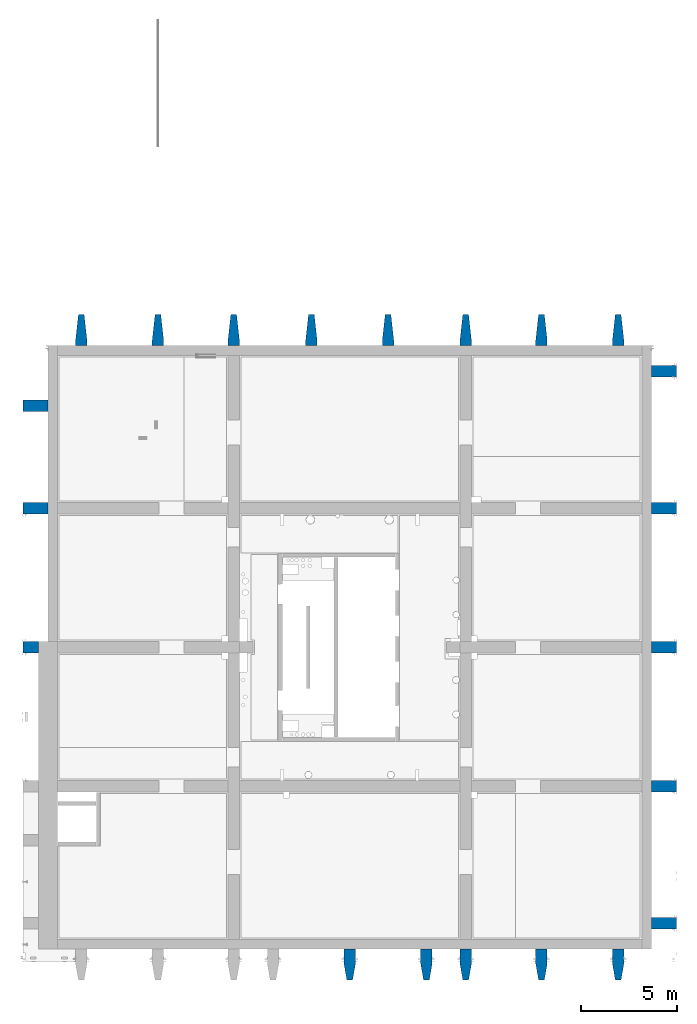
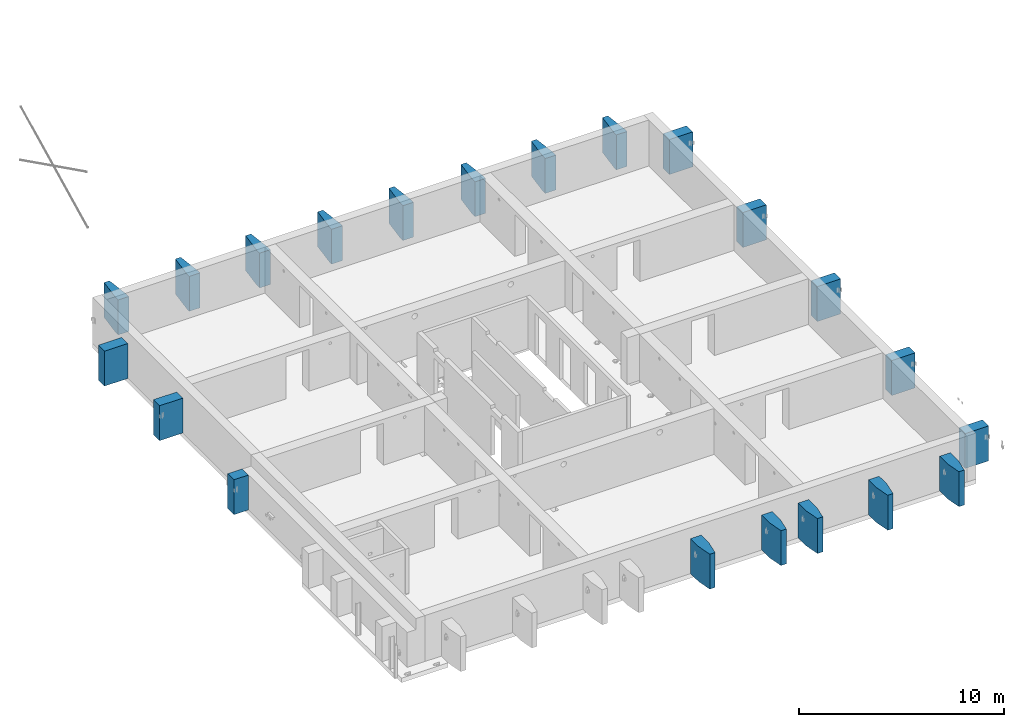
# One storey, part 2 of 22: 21 columns.
"""IFC2X3 building model written with IfcOpenShell, lengths in millimetres."""

from ifc_helpers import new_model, entity, si_unit, converted_unit, derived_unit, direction, frame, frame_2d, origin, origin_2d_with_axis, place, context, subcontext, project, spatial, polyline, rectangle, outline, extrude, source, transform, mapped, material, type_object, type_shapes, element, save


model = new_model("IFC2X3")

# Units and contexts
model_context = context("Model", 3, precision=0.01, world=origin(), true_north=direction((6.12303176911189e-17, 1.0)))
body_context = subcontext(model_context, "Body", "Model", "MODEL_VIEW")
ifc_project = project(units=[si_unit("LENGTHUNIT", "METRE", prefix="MILLI"), si_unit("AREAUNIT", "SQUARE_METRE"), si_unit("VOLUMEUNIT", "CUBIC_METRE"), converted_unit("PLANEANGLEUNIT", "DEGREE", entity("IfcRatioMeasure", 0.0174532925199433), si_unit("PLANEANGLEUNIT", "RADIAN"), dimensions=[0, 0, 0, 0, 0, 0, 0]), si_unit("MASSUNIT", "GRAM", prefix="KILO"), derived_unit("MASSDENSITYUNIT", [(si_unit("MASSUNIT", "GRAM", prefix="KILO"), 1), (si_unit("LENGTHUNIT", "METRE"), -3)]), si_unit("TIMEUNIT", "SECOND"), si_unit("FREQUENCYUNIT", "HERTZ"), si_unit("THERMODYNAMICTEMPERATUREUNIT", "DEGREE_CELSIUS"), derived_unit("THERMALTRANSMITTANCEUNIT", [(si_unit("MASSUNIT", "GRAM", prefix="KILO"), 1), (si_unit("THERMODYNAMICTEMPERATUREUNIT", "KELVIN"), -1), (si_unit("TIMEUNIT", "SECOND"), -3)]), derived_unit("VOLUMETRICFLOWRATEUNIT", [(si_unit("LENGTHUNIT", "METRE"), 3), (si_unit("TIMEUNIT", "SECOND"), -1)]), si_unit("ELECTRICCURRENTUNIT", "AMPERE"), si_unit("ELECTRICVOLTAGEUNIT", "VOLT"), si_unit("POWERUNIT", "WATT"), si_unit("FORCEUNIT", "NEWTON", prefix="KILO"), si_unit("ILLUMINANCEUNIT", "LUX"), si_unit("LUMINOUSFLUXUNIT", "LUMEN"), si_unit("LUMINOUSINTENSITYUNIT", "CANDELA"), derived_unit("USERDEFINED", [(si_unit("MASSUNIT", "GRAM", prefix="KILO"), -1), (si_unit("LENGTHUNIT", "METRE"), -2), (si_unit("TIMEUNIT", "SECOND"), 3), (si_unit("LUMINOUSFLUXUNIT", "LUMEN"), 1)]), derived_unit("LINEARVELOCITYUNIT", [(si_unit("LENGTHUNIT", "METRE"), 1), (si_unit("TIMEUNIT", "SECOND"), -1)]), si_unit("PRESSUREUNIT", "PASCAL"), derived_unit("USERDEFINED", [(si_unit("LENGTHUNIT", "METRE"), -2), (si_unit("MASSUNIT", "GRAM", prefix="KILO"), 1), (si_unit("TIMEUNIT", "SECOND"), -2)])], contexts=[model_context])

# Site, building, storey
site_placement = place(None, origin())
site = spatial("IfcSite", under=ifc_project, at=site_placement, Name="Default", CompositionType="ELEMENT")
building_placement = place(site_placement, origin())
building = spatial("IfcBuilding", under=site, at=building_placement, Name="niet gebruiken", CompositionType="ELEMENT")
storey_placement = place(building_placement, frame((0.0, 0.0, 15000.0)))
storey = spatial("IfcBuildingStorey", under=building, at=storey_placement, Name="04 vierde verdieping", CompositionType="ELEMENT", Elevation=15000.0)

# Columns
ifc_material = material(Name="NLRS_f2_beton ihwg")
column_type_1 = type_object("IfcColumnType", Name="600/300x2120/770", PredefinedType="COLUMN", material=ifc_material)
shared_shape_1 = source(origin(), body_context, "Body", "SweptSolid", [
    extrude(outline(polyline([(360.0, -300.0), (630.0, -300.0), (630.0, 300.0), (360.0, 300.0), (-990.0, 150.0), (-990.0, -150.0), (360.0, -300.0)])), frame((155750.0, 33860.0, 14910.0), z_axis=(0.0, 0.0, 1.0), x_axis=(0.0, -1.0, 0.0)), (0.0, 0.0, 1.0), 2075.00000000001),
])
type_shapes(column_type_1, [shared_shape_1])
column_1_placement = place(storey_placement, frame((0.0, 0.0, -15000.0)))
element("IfcColumn", 1, at=column_1_placement, inside=storey, type_object=column_type_1, material=ifc_material, Name="NLRS_28.11_SCO_TLB_beton kolom ihwg V vorm_gen:600/300x2120/770", ObjectType="600/300x2120/770", context=body_context, shape_type="MappedRepresentation", body=[
    mapped(shared_shape_1, transform((0.0, 0.0, 0.0), scale=1.0)),
])
column_type_2 = type_object("IfcColumnType", Name="600/300x2120/770", PredefinedType="COLUMN", material=ifc_material)
shared_shape_2 = source(origin(), body_context, "Body", "SweptSolid", [
    extrude(outline(polyline([(360.0, -300.0), (630.0, -300.0), (630.0, 300.0), (360.0, 300.0), (-990.0, 150.0), (-990.0, -150.0), (360.0, -300.0)])), frame((151750.0, 33860.0, 14910.0), z_axis=(0.0, 0.0, 1.0), x_axis=(0.0, -1.0, 0.0)), (0.0, 0.0, 1.0), 2075.00000000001),
])
type_shapes(column_type_2, [shared_shape_2])
column_2_placement = place(storey_placement, frame((0.0, 0.0, -15000.0)))
element("IfcColumn", 2, at=column_2_placement, inside=storey, type_object=column_type_2, material=ifc_material, Name="NLRS_28.11_SCO_TLB_beton kolom ihwg V vorm_gen:600/300x2120/770", ObjectType="600/300x2120/770", context=body_context, shape_type="MappedRepresentation", body=[
    mapped(shared_shape_2, transform((0.0, 0.0, 0.0), scale=1.0)),
])
column_type_3 = type_object("IfcColumnType", Name="600/300x2120/770", PredefinedType="COLUMN", material=ifc_material)
shared_shape_3 = source(origin(), body_context, "Body", "SweptSolid", [
    extrude(outline(polyline([(360.0, -300.0), (630.0, -300.0), (630.0, 300.0), (360.0, 300.0), (-990.0, 150.0), (-990.0, -150.0), (360.0, -300.0)])), frame((147800.0, 33860.0, 14910.0), z_axis=(0.0, 0.0, 1.0), x_axis=(0.0, -1.0, 0.0)), (0.0, 0.0, 1.0), 2075.00000000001),
])
type_shapes(column_type_3, [shared_shape_3])
column_3_placement = place(storey_placement, frame((0.0, 0.0, -15000.0)))
element("IfcColumn", 3, at=column_3_placement, inside=storey, type_object=column_type_3, material=ifc_material, Name="NLRS_28.11_SCO_TLB_beton kolom ihwg V vorm_gen:600/300x2120/770", ObjectType="600/300x2120/770", context=body_context, shape_type="MappedRepresentation", body=[
    mapped(shared_shape_3, transform((0.0, 0.0, 0.0), scale=1.0)),
])
column_type_4 = type_object("IfcColumnType", Name="600/300x2120/770", PredefinedType="COLUMN", material=ifc_material)
shared_shape_4 = source(origin(), body_context, "Body", "SweptSolid", [
    extrude(outline(polyline([(360.0, -300.0), (630.0, -300.0), (630.0, 300.0), (360.0, 300.0), (-990.0, 150.0), (-990.0, -150.0), (360.0, -300.0)])), frame((143750.0, 33860.0, 14910.0), z_axis=(0.0, 0.0, 1.0), x_axis=(0.0, -1.0, 0.0)), (0.0, 0.0, 1.0), 2075.00000000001),
])
type_shapes(column_type_4, [shared_shape_4])
column_4_placement = place(storey_placement, frame((0.0, 0.0, -15000.0)))
element("IfcColumn", 4, at=column_4_placement, inside=storey, type_object=column_type_4, material=ifc_material, Name="NLRS_28.11_SCO_TLB_beton kolom ihwg V vorm_gen:600/300x2120/770", ObjectType="600/300x2120/770", context=body_context, shape_type="MappedRepresentation", body=[
    mapped(shared_shape_4, transform((0.0, 0.0, 0.0), scale=1.0)),
])
column_type_5 = type_object("IfcColumnType", Name="600/300x2120/770", PredefinedType="COLUMN", material=ifc_material)
shared_shape_5 = source(origin(), body_context, "Body", "SweptSolid", [
    extrude(outline(polyline([(360.0, -300.0), (630.0, -300.0), (630.0, 300.0), (360.0, 300.0), (-990.0, 150.0), (-990.0, -150.0), (360.0, -300.0)])), frame((139750.0, 33860.0, 14910.0), z_axis=(0.0, 0.0, 1.0), x_axis=(0.0, -1.0, 0.0)), (0.0, 0.0, 1.0), 2075.00000000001),
])
type_shapes(column_type_5, [shared_shape_5])
column_5_placement = place(storey_placement, frame((0.0, 0.0, -15000.0)))
element("IfcColumn", 5, at=column_5_placement, inside=storey, type_object=column_type_5, material=ifc_material, Name="NLRS_28.11_SCO_TLB_beton kolom ihwg V vorm_gen:600/300x2120/770", ObjectType="600/300x2120/770", context=body_context, shape_type="MappedRepresentation", body=[
    mapped(shared_shape_5, transform((0.0, 0.0, 0.0), scale=1.0)),
])
column_type_6 = type_object("IfcColumnType", Name="600/300x2120/770", PredefinedType="COLUMN", material=ifc_material)
shared_shape_6 = source(origin(), body_context, "Body", "SweptSolid", [
    extrude(outline(polyline([(360.0, -300.0), (630.0, -300.0), (630.0, 300.0), (360.0, 300.0), (-990.0, 150.0), (-990.0, -150.0), (360.0, -300.0)])), frame((135700.0, 33860.0, 14910.0), z_axis=(0.0, 0.0, 1.0), x_axis=(0.0, -1.0, 0.0)), (0.0, 0.0, 1.0), 2075.00000000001),
])
type_shapes(column_type_6, [shared_shape_6])
column_6_placement = place(storey_placement, frame((0.0, 0.0, -15000.0)))
element("IfcColumn", 6, at=column_6_placement, inside=storey, type_object=column_type_6, material=ifc_material, Name="NLRS_28.11_SCO_TLB_beton kolom ihwg V vorm_gen:600/300x2120/770", ObjectType="600/300x2120/770", context=body_context, shape_type="MappedRepresentation", body=[
    mapped(shared_shape_6, transform((0.0, 0.0, 0.0), scale=1.0)),
])
column_type_7 = type_object("IfcColumnType", Name="600/300x2120/770", PredefinedType="COLUMN", material=ifc_material)
shared_shape_7 = source(origin(), body_context, "Body", "SweptSolid", [
    extrude(outline(polyline([(360.0, -300.0), (630.0, -300.0), (630.0, 300.0), (360.0, 300.0), (-990.0, 150.0), (-990.0, -150.0), (360.0, -300.0)])), frame((131750.0, 33860.0, 14910.0), z_axis=(0.0, 0.0, 1.0), x_axis=(0.0, -1.0, 0.0)), (0.0, 0.0, 1.0), 2075.00000000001),
])
type_shapes(column_type_7, [shared_shape_7])
column_7_placement = place(storey_placement, frame((0.0, 0.0, -15000.0)))
element("IfcColumn", 7, at=column_7_placement, inside=storey, type_object=column_type_7, material=ifc_material, Name="NLRS_28.11_SCO_TLB_beton kolom ihwg V vorm_gen:600/300x2120/770", ObjectType="600/300x2120/770", context=body_context, shape_type="MappedRepresentation", body=[
    mapped(shared_shape_7, transform((0.0, 0.0, 0.0), scale=1.0)),
])
column_type_8 = type_object("IfcColumnType", Name="600/300x2120/770", PredefinedType="COLUMN", material=ifc_material)
shared_shape_8 = source(origin(), body_context, "Body", "SweptSolid", [
    extrude(outline(polyline([(360.0, -300.0), (630.0, -300.0), (630.0, 300.0), (360.0, 300.0), (-990.0, 150.0), (-990.0, -150.0), (360.0, -300.0)])), frame((127750.0, 33860.0, 14910.0), z_axis=(0.0, 0.0, 1.0), x_axis=(0.0, -1.0, 0.0)), (0.0, 0.0, 1.0), 2075.00000000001),
])
type_shapes(column_type_8, [shared_shape_8])
column_8_placement = place(storey_placement, frame((0.0, 0.0, -15000.0)))
element("IfcColumn", 8, at=column_8_placement, inside=storey, type_object=column_type_8, material=ifc_material, Name="NLRS_28.11_SCO_TLB_beton kolom ihwg V vorm_gen:600/300x2120/770", ObjectType="600/300x2120/770", context=body_context, shape_type="MappedRepresentation", body=[
    mapped(shared_shape_8, transform((0.0, 0.0, 0.0), scale=1.0)),
])
column_type_9 = type_object("IfcColumnType", Name="600/300x2120/1270", PredefinedType="COLUMN", material=ifc_material)
shared_shape_9 = source(origin(), body_context, "Body", "SweptSolid", [
    extrude(outline(polyline([(-796.666666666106, -300.0), (-26.6666666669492, -300.0), (823.333333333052, -150.0), (823.333333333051, 150.0), (-26.6666666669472, 300.0), (-796.6666666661, 300.0), (-796.666666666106, -300.0)])), frame((141750.0, 973.333333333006, 14910.0), z_axis=(0.0, 0.0, 1.0), x_axis=(0.0, -1.0, 0.0)), (0.0, 0.0, 1.0), 2075.00000000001),
])
type_shapes(column_type_9, [shared_shape_9])
column_9_placement = place(storey_placement, frame((0.0, 0.0, -15000.0)))
element("IfcColumn", 9, at=column_9_placement, inside=storey, type_object=column_type_9, material=ifc_material, Name="NLRS_28.11_SCO_TLB_beton kolom ihwg V vorm_gen:600/300x2120/1270", ObjectType="600/300x2120/1270", context=body_context, shape_type="MappedRepresentation", body=[
    mapped(shared_shape_9, transform((0.0, 0.0, 0.0), scale=1.0)),
])
column_type_10 = type_object("IfcColumnType", Name="600/300x2120/1270", PredefinedType="COLUMN", material=ifc_material)
shared_shape_10 = source(origin(), body_context, "Body", "SweptSolid", [
    extrude(outline(polyline([(-796.666666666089, -300.0), (-26.6666666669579, -300.0), (823.333333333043, -150.0), (823.333333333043, 150.0), (-26.6666666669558, 300.0), (-796.666666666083, 300.0), (-796.666666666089, -300.0)])), frame((145750.0, 973.333333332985, 14910.0), z_axis=(0.0, 0.0, 1.0), x_axis=(0.0, -1.0, 0.0)), (0.0, 0.0, 1.0), 2075.00000000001),
])
type_shapes(column_type_10, [shared_shape_10])
column_10_placement = place(storey_placement, frame((0.0, 0.0, -15000.0)))
element("IfcColumn", 10, at=column_10_placement, inside=storey, type_object=column_type_10, material=ifc_material, Name="NLRS_28.11_SCO_TLB_beton kolom ihwg V vorm_gen:600/300x2120/1270", ObjectType="600/300x2120/1270", context=body_context, shape_type="MappedRepresentation", body=[
    mapped(shared_shape_10, transform((0.0, 0.0, 0.0), scale=1.0)),
])
column_type_11 = type_object("IfcColumnType", Name="600/300x2120/1270", PredefinedType="COLUMN", material=ifc_material)
shared_shape_11 = source(origin(), body_context, "Body", "SweptSolid", [
    extrude(outline(polyline([(-796.66666666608, -300.0), (-26.6666666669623, -300.0), (823.333333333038, -150.0), (823.333333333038, 150.0), (-26.6666666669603, 300.0), (-796.666666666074, 300.0), (-796.66666666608, -300.0)])), frame((147800.0, 973.333333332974, 14910.0), z_axis=(0.0, 0.0, 1.0), x_axis=(0.0, -1.0, 0.0)), (0.0, 0.0, 1.0), 2075.00000000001),
])
type_shapes(column_type_11, [shared_shape_11])
column_11_placement = place(storey_placement, frame((0.0, 0.0, -15000.0)))
element("IfcColumn", 11, at=column_11_placement, inside=storey, type_object=column_type_11, material=ifc_material, Name="NLRS_28.11_SCO_TLB_beton kolom ihwg V vorm_gen:600/300x2120/1270", ObjectType="600/300x2120/1270", context=body_context, shape_type="MappedRepresentation", body=[
    mapped(shared_shape_11, transform((0.0, 0.0, 0.0), scale=1.0)),
])
column_type_12 = type_object("IfcColumnType", Name="600/300x2120/1270", PredefinedType="COLUMN", material=ifc_material)
shared_shape_12 = source(origin(), body_context, "Body", "SweptSolid", [
    extrude(outline(polyline([(-796.666666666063, -300.0), (-26.6666666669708, -300.0), (823.33333333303, -150.0), (823.33333333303, 150.0), (-26.6666666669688, 300.0), (-796.666666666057, 300.0), (-796.666666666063, -300.0)])), frame((151750.0, 973.333333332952, 14910.0), z_axis=(0.0, 0.0, 1.0), x_axis=(0.0, -1.0, 0.0)), (0.0, 0.0, 1.0), 2075.00000000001),
])
type_shapes(column_type_12, [shared_shape_12])
column_12_placement = place(storey_placement, frame((0.0, 0.0, -15000.0)))
element("IfcColumn", 12, at=column_12_placement, inside=storey, type_object=column_type_12, material=ifc_material, Name="NLRS_28.11_SCO_TLB_beton kolom ihwg V vorm_gen:600/300x2120/1270", ObjectType="600/300x2120/1270", context=body_context, shape_type="MappedRepresentation", body=[
    mapped(shared_shape_12, transform((0.0, 0.0, 0.0), scale=1.0)),
])
column_type_13 = type_object("IfcColumnType", Name="600/300x2120/1270", PredefinedType="COLUMN", material=ifc_material)
shared_shape_13 = source(origin(), body_context, "Body", "SweptSolid", [
    extrude(outline(polyline([(-796.666666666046, -300.0), (-26.6666666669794, -300.0), (823.333333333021, -150.0), (823.333333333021, 150.0), (-26.6666666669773, 300.0), (-796.66666666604, 300.0), (-796.666666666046, -300.0)])), frame((155750.0, 973.333333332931, 14910.0), z_axis=(0.0, 0.0, 1.0), x_axis=(0.0, -1.0, 0.0)), (0.0, 0.0, 1.0), 2075.00000000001),
])
type_shapes(column_type_13, [shared_shape_13])
column_13_placement = place(storey_placement, frame((0.0, 0.0, -15000.0)))
element("IfcColumn", 13, at=column_13_placement, inside=storey, type_object=column_type_13, material=ifc_material, Name="NLRS_28.11_SCO_TLB_beton kolom ihwg V vorm_gen:600/300x2120/1270", ObjectType="600/300x2120/1270", context=body_context, shape_type="MappedRepresentation", body=[
    mapped(shared_shape_13, transform((0.0, 0.0, 0.0), scale=1.0)),
])
column_type_14 = type_object("IfcColumnType", Name="600x1320", PredefinedType="COLUMN", material=ifc_material)
shared_shape_14 = source(origin(), body_context, "Body", "SweptSolid", [
    extrude(rectangle(XDim=600.000000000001, YDim=1320.00000000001, at=origin_2d_with_axis()), frame((158140.0, 3100.0, 14910.0), z_axis=(0.0, 0.0, 1.0), x_axis=(0.0, -1.0, 0.0)), (0.0, 0.0, 1.0), 2075.00000000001),
])
type_shapes(column_type_14, [shared_shape_14])
column_14_placement = place(storey_placement, frame((0.0, 0.0, -15000.0)))
element("IfcColumn", 14, at=column_14_placement, inside=storey, type_object=column_type_14, material=ifc_material, Name="NLRS_28.11_SCO_TLB_beton kolom ihwg_gen:600x1320", ObjectType="600x1320", context=body_context, shape_type="MappedRepresentation", body=[
    mapped(shared_shape_14, transform((0.0, 0.0, 0.0), scale=1.0)),
])
column_type_15 = type_object("IfcColumnType", Name="600x1320", PredefinedType="COLUMN", material=ifc_material)
shared_shape_15 = source(origin(), body_context, "Body", "SweptSolid", [
    extrude(rectangle(XDim=599.999999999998, YDim=1320.00000000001, at=frame_2d((-1.08002495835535e-12, 0.0), x_axis=(1.0, 0.0))), frame((158140.0, 10250.0, 14910.0), z_axis=(0.0, 0.0, 1.0), x_axis=(0.0, -1.0, 0.0)), (0.0, 0.0, 1.0), 2075.00000000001),
])
type_shapes(column_type_15, [shared_shape_15])
column_15_placement = place(storey_placement, frame((0.0, 0.0, -15000.0)))
element("IfcColumn", 15, at=column_15_placement, inside=storey, type_object=column_type_15, material=ifc_material, Name="NLRS_28.11_SCO_TLB_beton kolom ihwg_gen:600x1320", ObjectType="600x1320", context=body_context, shape_type="MappedRepresentation", body=[
    mapped(shared_shape_15, transform((0.0, 0.0, 0.0), scale=1.0)),
])
column_type_16 = type_object("IfcColumnType", Name="600x1320", PredefinedType="COLUMN", material=ifc_material)
shared_shape_16 = source(origin(), body_context, "Body", "SweptSolid", [
    extrude(rectangle(XDim=599.999999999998, YDim=1320.00000000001, at=frame_2d((1.08002495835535e-12, 0.0), x_axis=(1.0, 0.0))), frame((158140.0, 17500.0, 14910.0), z_axis=(0.0, 0.0, 1.0), x_axis=(0.0, -1.0, 0.0)), (0.0, 0.0, 1.0), 2075.00000000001),
])
type_shapes(column_type_16, [shared_shape_16])
column_16_placement = place(storey_placement, frame((0.0, 0.0, -15000.0)))
element("IfcColumn", 16, at=column_16_placement, inside=storey, type_object=column_type_16, material=ifc_material, Name="NLRS_28.11_SCO_TLB_beton kolom ihwg_gen:600x1320", ObjectType="600x1320", context=body_context, shape_type="MappedRepresentation", body=[
    mapped(shared_shape_16, transform((0.0, 0.0, 0.0), scale=1.0)),
])
column_type_17 = type_object("IfcColumnType", Name="600x1320", PredefinedType="COLUMN", material=ifc_material)
shared_shape_17 = source(origin(), body_context, "Body", "SweptSolid", [
    extrude(rectangle(XDim=599.999999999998, YDim=1320.00000000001, at=origin_2d_with_axis()), frame((158140.0, 24750.0, 14910.0), z_axis=(0.0, 0.0, 1.0), x_axis=(0.0, -1.0, 0.0)), (0.0, 0.0, 1.0), 2075.00000000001),
])
type_shapes(column_type_17, [shared_shape_17])
column_17_placement = place(storey_placement, frame((0.0, 0.0, -15000.0)))
element("IfcColumn", 17, at=column_17_placement, inside=storey, type_object=column_type_17, material=ifc_material, Name="NLRS_28.11_SCO_TLB_beton kolom ihwg_gen:600x1320", ObjectType="600x1320", context=body_context, shape_type="MappedRepresentation", body=[
    mapped(shared_shape_17, transform((0.0, 0.0, 0.0), scale=1.0)),
])
column_type_18 = type_object("IfcColumnType", Name="600x1320", PredefinedType="COLUMN", material=ifc_material)
shared_shape_18 = source(origin(), body_context, "Body", "SweptSolid", [
    extrude(rectangle(XDim=599.999999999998, YDim=1320.00000000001, at=origin_2d_with_axis()), frame((158140.0, 31900.0, 14910.0), z_axis=(0.0, 0.0, 1.0), x_axis=(0.0, -1.0, 0.0)), (0.0, 0.0, 1.0), 2075.00000000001),
])
type_shapes(column_type_18, [shared_shape_18])
column_18_placement = place(storey_placement, frame((0.0, 0.0, -15000.0)))
element("IfcColumn", 18, at=column_18_placement, inside=storey, type_object=column_type_18, material=ifc_material, Name="NLRS_28.11_SCO_TLB_beton kolom ihwg_gen:600x1320", ObjectType="600x1320", context=body_context, shape_type="MappedRepresentation", body=[
    mapped(shared_shape_18, transform((0.0, 0.0, 0.0), scale=1.0)),
])
column_type_19 = type_object("IfcColumnType", Name="600x820", PredefinedType="COLUMN", material=ifc_material)
shared_shape_19 = source(origin(), body_context, "Body", "SweptSolid", [
    extrude(rectangle(XDim=600.0, YDim=820.000000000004, at=frame_2d((-1.08002495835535e-12, 1.73372427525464e-11), x_axis=(1.0, 0.0))), frame((125110.0, 17500.0, 14910.0), z_axis=(0.0, 0.0, 1.0), x_axis=(0.0, -1.0, 0.0)), (0.0, 0.0, 1.0), 2075.00000000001),
])
type_shapes(column_type_19, [shared_shape_19])
column_19_placement = place(storey_placement, frame((0.0, 0.0, -15000.0)))
element("IfcColumn", 19, at=column_19_placement, inside=storey, type_object=column_type_19, material=ifc_material, Name="NLRS_28.11_SCO_TLB_beton kolom ihwg_gen:600x820", ObjectType="600x820", context=body_context, shape_type="MappedRepresentation", body=[
    mapped(shared_shape_19, transform((0.0, 0.0, 0.0), scale=1.0)),
])
column_type_20 = type_object("IfcColumnType", Name="600x1320", PredefinedType="COLUMN", material=ifc_material)
shared_shape_20 = source(origin(), body_context, "Body", "SweptSolid", [
    extrude(rectangle(XDim=599.999999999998, YDim=1319.99999999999, at=frame_2d((0.0, -1.73372427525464e-11), x_axis=(1.0, 0.0))), frame((125360.0, 24750.0, 14910.0), z_axis=(0.0, 0.0, 1.0), x_axis=(0.0, -1.0, 0.0)), (0.0, 0.0, 1.0), 2075.00000000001),
])
type_shapes(column_type_20, [shared_shape_20])
column_20_placement = place(storey_placement, frame((0.0, 0.0, -15000.0)))
element("IfcColumn", 20, at=column_20_placement, inside=storey, type_object=column_type_20, material=ifc_material, Name="NLRS_28.11_SCO_TLB_beton kolom ihwg_gen:600x1320", ObjectType="600x1320", context=body_context, shape_type="MappedRepresentation", body=[
    mapped(shared_shape_20, transform((0.0, 0.0, 0.0), scale=1.0)),
])
column_type_21 = type_object("IfcColumnType", Name="600x1320", PredefinedType="COLUMN", material=ifc_material)
shared_shape_21 = source(origin(), body_context, "Body", "SweptSolid", [
    extrude(rectangle(XDim=599.999999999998, YDim=1319.99999999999, at=frame_2d((0.0, -1.73372427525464e-11), x_axis=(1.0, 0.0))), frame((125360.0, 30100.0, 14910.0), z_axis=(0.0, 0.0, 1.0), x_axis=(0.0, -1.0, 0.0)), (0.0, 0.0, 1.0), 2075.00000000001),
])
type_shapes(column_type_21, [shared_shape_21])
column_21_placement = place(storey_placement, frame((0.0, 0.0, -15000.0)))
element("IfcColumn", 21, at=column_21_placement, inside=storey, type_object=column_type_21, material=ifc_material, Name="NLRS_28.11_SCO_TLB_beton kolom ihwg_gen:600x1320", ObjectType="600x1320", context=body_context, shape_type="MappedRepresentation", body=[
    mapped(shared_shape_21, transform((0.0, 0.0, 0.0), scale=1.0)),
])

save(model, "model.ifc")
